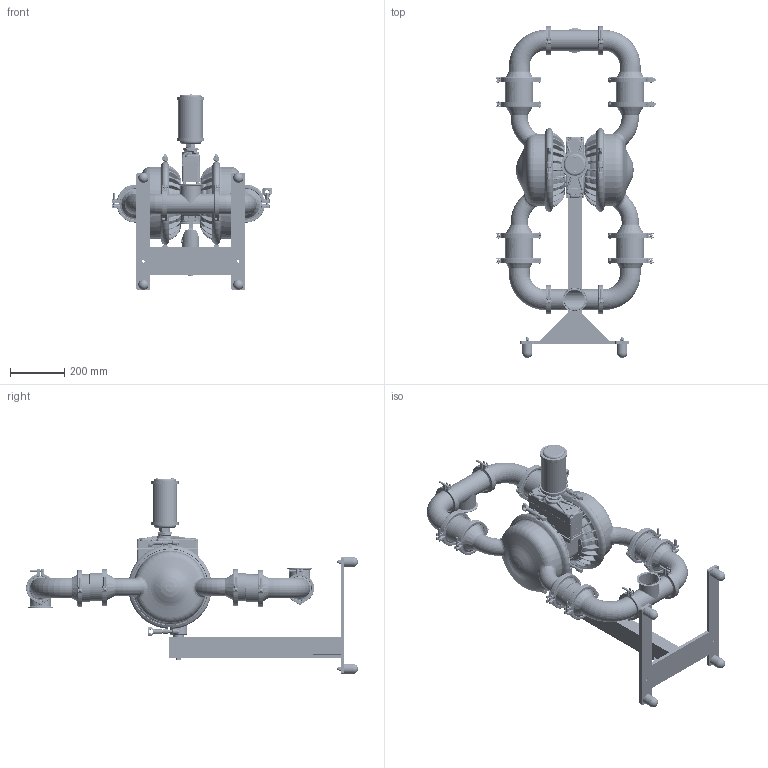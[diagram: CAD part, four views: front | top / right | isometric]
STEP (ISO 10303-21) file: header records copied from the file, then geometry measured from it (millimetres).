
FILE_DESCRIPTION((''),'2;1');
FILE_NAME('PS15_SS_SANIFLO_HS_BA_SW0004','2015-05-01T',('nathan.hale'),(''),'PRO/ENGINEER BY PARAMETRIC TECHNOLOGY CORPORATION, 2013320','PRO/ENGINEER BY PARAMETRIC TECHNOLOGY CORPORATION, 2013320','');
FILE_SCHEMA(('CONFIG_CONTROL_DESIGN'));
Products named in the file (1): PS15_SS_SANIFLO_HS_BA_SW0004
Bounding box: 588.82 x 1221.38 x 721.39 mm (x, y, z)
Volume: 11074753.8 mm3; surface area: 3650567.7 mm2
Topology: 20 solids, 50 shells, 19319 faces, 49161 edges, 30357 vertices
Faces by surface type: plane 9802, cylinder 2883, bspline 2698, torus 2209, cone 1038, sphere 607, extrusion 82
Entity records: 789372 total; most frequent: CARTESIAN_POINT 338158, ORIENTED_EDGE 97714, DIRECTION 89130, EDGE_CURVE 48857, VERTEX_POINT 30357, AXIS2_PLACEMENT_3D 29866, VECTOR 29398, LINE 29316
